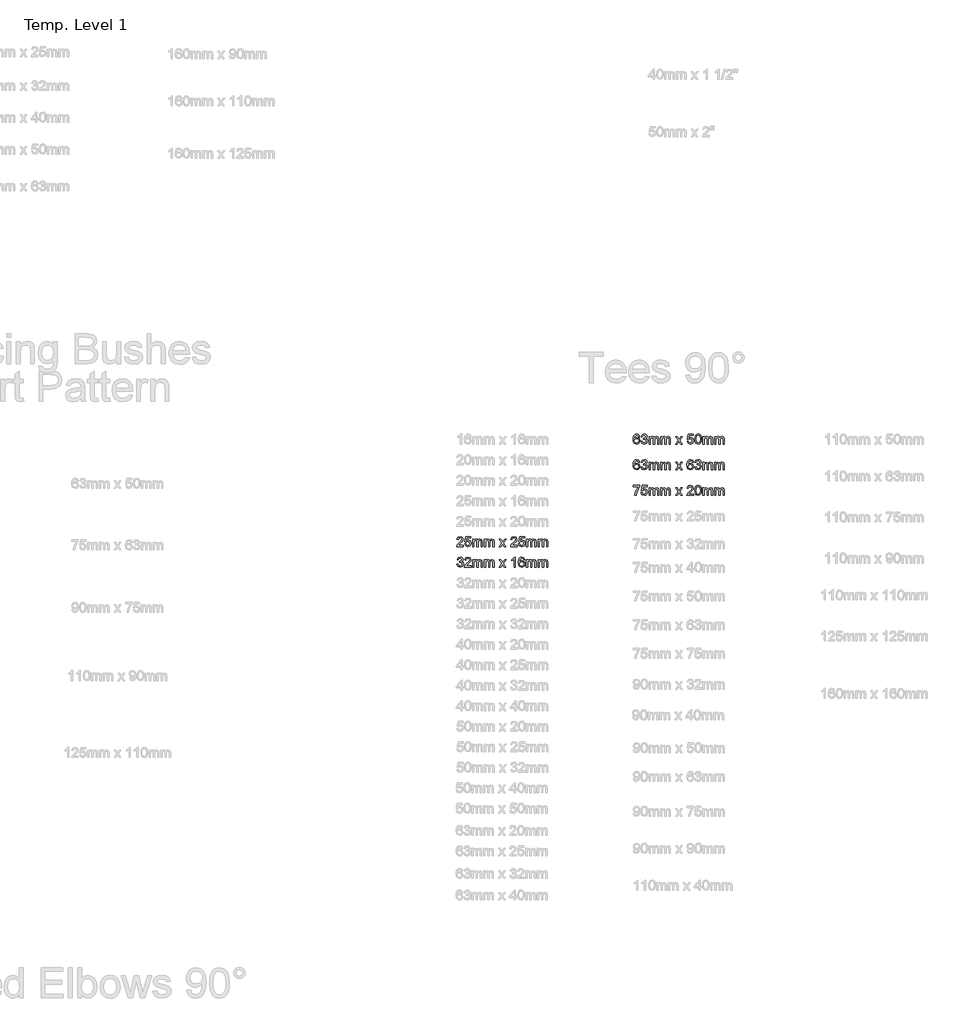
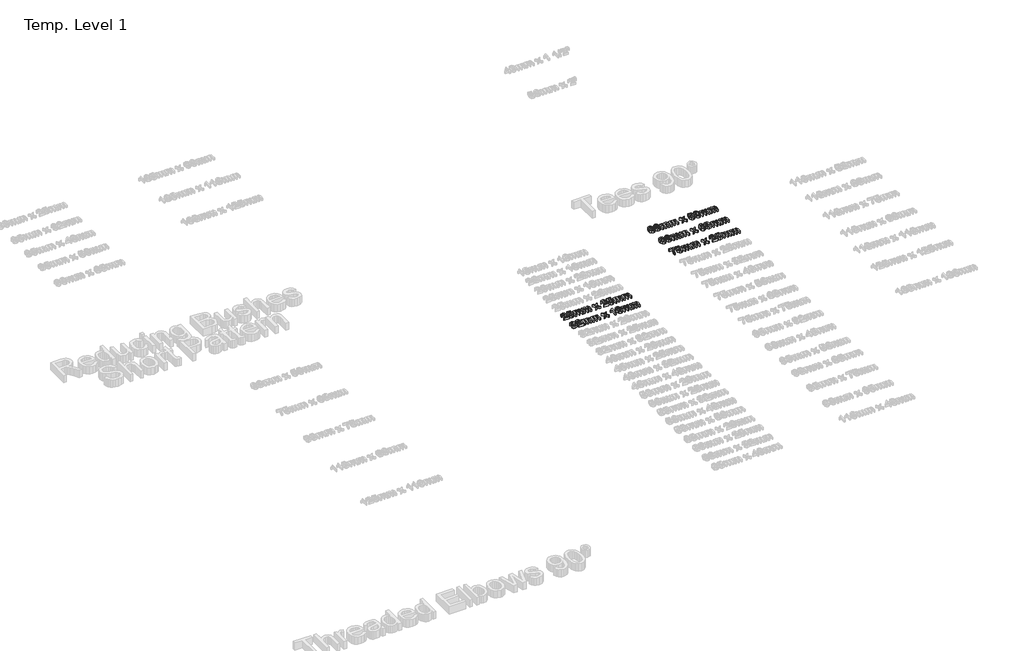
# One storey, part 43 of 62: 5 proxies.
"""IFC4 building model written with IfcOpenShell, lengths in millimetres."""

from ifc_helpers import new_model, si_unit, origin, origin_with_axes, place, context, project, spatial, polyline, outline, extrude, element, save

model = new_model("IFC4")

# Units and contexts
model_context = context("Model", 3, world=origin())
ifc_project = project(units=[si_unit("LENGTHUNIT", "METRE", prefix="MILLI")], contexts=[model_context])

# Site, building, storey
site = spatial("IfcSite", under=ifc_project)
building = spatial("IfcBuilding", under=site)
storey = spatial("IfcBuildingStorey", under=building, Name="Temp. Level 1", Elevation=0.0)

# Proxies
placement = place(None, origin())
element("IfcBuildingElementProxy", 1, Name="50mm Arial", ObjectType="50mm Arial", at=placement, inside=storey, context=model_context, shape_type="SweptSolid", body=[
    extrude(outline(polyline([(26447.257096, -7863.4026523), (26447.257096, -7869.5564984), (26414.9494036, -7869.5564984), (26415.6104613, -7865.31371), (26419.3484421, -7858.7812581), (26427.052769, -7851.6478446), (26437.677769, -7841.3954408), (26440.334019, -7834.4242869), (26437.8280094, -7828.7812581), (26431.2835383, -7826.4795754), (26424.4626248, -7828.7271715), (26421.8724806, -7834.9411138), (26415.7186344, -7834.1718831), (26420.4361825, -7823.8714023), (26431.4157498, -7820.3257292), (26442.4313748, -7824.2680369), (26446.4878652, -7834.0516908), (26445.3941152, -7839.8870273), (26441.7582979, -7845.9206811), (26432.9421921, -7854.3521715), (26425.8628652, -7860.2716427), (26423.0864229, -7863.4026523), (26447.257096, -7863.4026523)])), origin_with_axes(), (0.0, 0.0, 1.0), 15.0),
    extrude(outline(polyline([(26453.4109421, -7856.4795754), (26459.5647883, -7855.7103446), (26462.6657498, -7862.0504888), (26469.0960383, -7864.1718831), (26476.8123844, -7861.2211619), (26479.5647883, -7853.3906331), (26476.9866633, -7846.0829408), (26469.1921921, -7843.4026523), (26463.7895479, -7844.4723638), (26460.334019, -7847.2488061), (26454.1801729, -7846.4795754), (26459.5647883, -7821.09496), (26483.4109421, -7821.09496), (26483.4109421, -7827.2488061), (26464.5407498, -7827.2488061), (26461.9085383, -7840.8064984), (26470.9109421, -7837.2488061), (26481.4337786, -7841.6598638), (26485.7186344, -7853.0060177), (26481.8604613, -7864.4242869), (26476.319596, -7868.8503686), (26469.0719998, -7870.3257292), (26458.2126248, -7866.5336619), (26453.4109421, -7856.4795754)])), origin_with_axes(), (0.0, 0.0, 1.0), 15.0),
    extrude(outline(polyline([(26492.6417113, -7869.5564984), (26492.6417113, -7833.4026523), (26498.7955575, -7833.4026523), (26498.7955575, -7839.3521715), (26503.0263267, -7834.4783734), (26509.0479613, -7832.6334215), (26515.2138267, -7834.5144311), (26518.6032498, -7839.7848638), (26523.4049325, -7834.4212821), (26529.4686344, -7832.6334215), (26537.5155094, -7835.6081811), (26540.334019, -7844.7728446), (26540.334019, -7869.5564984), (26534.1801729, -7869.5564984), (26534.1801729, -7847.4170754), (26533.6092594, -7842.2788542), (26531.5419517, -7839.7488061), (26528.0263267, -7838.7872677), (26521.974644, -7841.25121), (26519.5647883, -7849.1478446), (26519.5647883, -7869.5564984), (26513.4109421, -7869.5564984), (26513.4109421, -7846.7319792), (26511.9866633, -7840.7704408), (26507.3171921, -7838.7872677), (26502.7619036, -7840.1093831), (26499.7330575, -7843.9795754), (26498.7955575, -7851.3233254), (26498.7955575, -7869.5564984), (26492.6417113, -7869.5564984)])), origin_with_axes(), (0.0, 0.0, 1.0), 15.0),
    extrude(outline(polyline([(26549.5647883, -7869.5564984), (26549.5647883, -7833.4026523), (26555.7186344, -7833.4026523), (26555.7186344, -7839.3521715), (26559.9494036, -7834.4783734), (26565.9710383, -7832.6334215), (26572.1369036, -7834.5144311), (26575.5263267, -7839.7848638), (26580.3280094, -7834.4212821), (26586.3917113, -7832.6334215), (26594.4385863, -7835.6081811), (26597.257096, -7844.7728446), (26597.257096, -7869.5564984), (26591.1032498, -7869.5564984), (26591.1032498, -7847.4170754), (26590.5323363, -7842.2788542), (26588.4650286, -7839.7488061), (26584.9494036, -7838.7872677), (26578.897721, -7841.25121), (26576.4878652, -7849.1478446), (26576.4878652, -7869.5564984), (26570.334019, -7869.5564984), (26570.334019, -7846.7319792), (26568.9097402, -7840.7704408), (26564.240269, -7838.7872677), (26559.6849806, -7840.1093831), (26556.6561344, -7843.9795754), (26555.7186344, -7851.3233254), (26555.7186344, -7869.5564984), (26549.5647883, -7869.5564984)])), origin_with_axes(), (0.0, 0.0, 1.0), 15.0),
    extrude(outline(polyline([(26621.8724806, -7869.5564984), (26635.021519, -7851.3834215), (26622.6417113, -7833.4026523), (26630.0455575, -7833.4026523), (26636.0191152, -7842.0564984), (26638.8075767, -7846.1430369), (26641.2234421, -7842.8016908), (26648.0263267, -7833.4026523), (26655.4301729, -7833.4026523), (26642.4253652, -7851.3834215), (26654.9494036, -7869.5564984), (26647.5455575, -7869.5564984), (26640.0094998, -7858.6310177), (26638.6272883, -7856.6358254), (26629.2763267, -7869.5564984), (26621.8724806, -7869.5564984)])), origin_with_axes(), (0.0, 0.0, 1.0), 15.0),
    extrude(outline(polyline([(26709.5647883, -7863.4026523), (26709.5647883, -7869.5564984), (26677.257096, -7869.5564984), (26677.9181536, -7865.31371), (26681.6561344, -7858.7812581), (26689.3604613, -7851.6478446), (26699.9854613, -7841.3954408), (26702.6417113, -7834.4242869), (26700.1357017, -7828.7812581), (26693.5912306, -7826.4795754), (26686.7703171, -7828.7271715), (26684.1801729, -7834.9411138), (26678.0263267, -7834.1718831), (26682.7438748, -7823.8714023), (26693.7234421, -7820.3257292), (26704.7390671, -7824.2680369), (26708.7955575, -7834.0516908), (26707.7018075, -7839.8870273), (26704.0659902, -7845.9206811), (26695.2498844, -7854.3521715), (26688.1705575, -7860.2716427), (26685.3941152, -7863.4026523), (26709.5647883, -7863.4026523)])), origin_with_axes(), (0.0, 0.0, 1.0), 15.0),
    extrude(outline(polyline([(26715.7186344, -7856.4795754), (26721.8724806, -7855.7103446), (26724.9734421, -7862.0504888), (26731.4037306, -7864.1718831), (26739.1200767, -7861.2211619), (26741.8724806, -7853.3906331), (26739.2943556, -7846.0829408), (26731.4998844, -7843.4026523), (26726.0972402, -7844.4723638), (26722.6417113, -7847.2488061), (26716.4878652, -7846.4795754), (26721.8724806, -7821.09496), (26745.7186344, -7821.09496), (26745.7186344, -7827.2488061), (26726.8484421, -7827.2488061), (26724.2162306, -7840.8064984), (26733.2186344, -7837.2488061), (26743.741471, -7841.6598638), (26748.0263267, -7853.0060177), (26744.1681536, -7864.4242869), (26738.6272883, -7868.8503686), (26731.3796921, -7870.3257292), (26720.5203171, -7866.5336619), (26715.7186344, -7856.4795754)])), origin_with_axes(), (0.0, 0.0, 1.0), 15.0),
    extrude(outline(polyline([(26754.9494036, -7869.5564984), (26754.9494036, -7833.4026523), (26761.1032498, -7833.4026523), (26761.1032498, -7839.3521715), (26765.334019, -7834.4783734), (26771.3556536, -7832.6334215), (26777.521519, -7834.5144311), (26780.9109421, -7839.7848638), (26785.7126248, -7834.4212821), (26791.7763267, -7832.6334215), (26799.8232017, -7835.6081811), (26802.6417113, -7844.7728446), (26802.6417113, -7869.5564984), (26796.4878652, -7869.5564984), (26796.4878652, -7847.4170754), (26795.9169517, -7842.2788542), (26793.849644, -7839.7488061), (26790.334019, -7838.7872677), (26784.2823363, -7841.25121), (26781.8724806, -7849.1478446), (26781.8724806, -7869.5564984), (26775.7186344, -7869.5564984), (26775.7186344, -7846.7319792), (26774.2943556, -7840.7704408), (26769.6248844, -7838.7872677), (26765.069596, -7840.1093831), (26762.0407498, -7843.9795754), (26761.1032498, -7851.3233254), (26761.1032498, -7869.5564984), (26754.9494036, -7869.5564984)])), origin_with_axes(), (0.0, 0.0, 1.0), 15.0),
    extrude(outline(polyline([(26811.8724806, -7869.5564984), (26811.8724806, -7833.4026523), (26818.0263267, -7833.4026523), (26818.0263267, -7839.3521715), (26822.257096, -7834.4783734), (26828.2787306, -7832.6334215), (26834.444596, -7834.5144311), (26837.834019, -7839.7848638), (26842.6357017, -7834.4212821), (26848.6994036, -7832.6334215), (26856.7462786, -7835.6081811), (26859.5647883, -7844.7728446), (26859.5647883, -7869.5564984), (26853.4109421, -7869.5564984), (26853.4109421, -7847.4170754), (26852.8400286, -7842.2788542), (26850.772721, -7839.7488061), (26847.257096, -7838.7872677), (26841.2054133, -7841.25121), (26838.7955575, -7849.1478446), (26838.7955575, -7869.5564984), (26832.6417113, -7869.5564984), (26832.6417113, -7846.7319792), (26831.2174325, -7840.7704408), (26826.5479613, -7838.7872677), (26821.9926729, -7840.1093831), (26818.9638267, -7843.9795754), (26818.0263267, -7851.3233254), (26818.0263267, -7869.5564984), (26811.8724806, -7869.5564984)])), origin_with_axes(), (0.0, 0.0, 1.0), 15.0),
])
element("IfcBuildingElementProxy", 2, Name="50mm Arial", ObjectType="50mm Arial", at=placement, inside=storey, context=model_context, shape_type="SweptSolid", body=[
    extrude(outline(polyline([(26415.7186344, -7956.4795754), (26421.8724806, -7955.7103446), (26425.2679133, -7962.18871), (26431.6200767, -7964.1718831), (26439.0960383, -7961.4435177), (26441.8724806, -7954.68871), (26439.1200767, -7948.3245273), (26432.1248844, -7945.8064984), (26427.8099806, -7946.4795754), (26428.4950767, -7940.3257292), (26436.4638267, -7938.6310177), (26439.5647883, -7933.1983254), (26437.3171921, -7928.3846234), (26431.5239229, -7926.4795754), (26425.6585383, -7928.4026523), (26422.6417113, -7934.1718831), (26416.4878652, -7933.4026523), (26421.5239229, -7923.75121), (26431.3075767, -7920.3257292), (26438.7294517, -7922.0144311), (26443.9217594, -7926.6298158), (26445.7186344, -7932.8377484), (26444.0119036, -7938.5108254), (26438.9638267, -7942.5853446), (26445.6705575, -7946.7920754), (26448.0263267, -7954.7968831), (26443.3147883, -7965.8064984), (26431.4037306, -7970.3257292), (26420.6104613, -7966.4675561), (26415.7186344, -7956.4795754)])), origin_with_axes(), (0.0, 0.0, 1.0), 15.0),
    extrude(outline(polyline([(26484.9494036, -7963.4026523), (26484.9494036, -7969.5564984), (26452.6417113, -7969.5564984), (26453.302769, -7965.31371), (26457.0407498, -7958.7812581), (26464.7450767, -7951.6478446), (26475.3700767, -7941.3954408), (26478.0263267, -7934.4242869), (26475.5203171, -7928.7812581), (26468.975846, -7926.4795754), (26462.1549325, -7928.7271715), (26459.5647883, -7934.9411138), (26453.4109421, -7934.1718831), (26458.1284902, -7923.8714023), (26469.1080575, -7920.3257292), (26480.1236825, -7924.2680369), (26484.1801729, -7934.0516908), (26483.0864229, -7939.8870273), (26479.4506056, -7945.9206811), (26470.6344998, -7954.3521715), (26463.5551729, -7960.2716427), (26460.7787306, -7963.4026523), (26484.9494036, -7963.4026523)])), origin_with_axes(), (0.0, 0.0, 1.0), 15.0),
    extrude(outline(polyline([(26492.6417113, -7969.5564984), (26492.6417113, -7933.4026523), (26498.7955575, -7933.4026523), (26498.7955575, -7939.3521715), (26503.0263267, -7934.4783734), (26509.0479613, -7932.6334215), (26515.2138267, -7934.5144311), (26518.6032498, -7939.7848638), (26523.4049325, -7934.4212821), (26529.4686344, -7932.6334215), (26537.5155094, -7935.6081811), (26540.334019, -7944.7728446), (26540.334019, -7969.5564984), (26534.1801729, -7969.5564984), (26534.1801729, -7947.4170754), (26533.6092594, -7942.2788542), (26531.5419517, -7939.7488061), (26528.0263267, -7938.7872677), (26521.974644, -7941.25121), (26519.5647883, -7949.1478446), (26519.5647883, -7969.5564984), (26513.4109421, -7969.5564984), (26513.4109421, -7946.7319792), (26511.9866633, -7940.7704408), (26507.3171921, -7938.7872677), (26502.7619036, -7940.1093831), (26499.7330575, -7943.9795754), (26498.7955575, -7951.3233254), (26498.7955575, -7969.5564984), (26492.6417113, -7969.5564984)])), origin_with_axes(), (0.0, 0.0, 1.0), 15.0),
    extrude(outline(polyline([(26549.5647883, -7969.5564984), (26549.5647883, -7933.4026523), (26555.7186344, -7933.4026523), (26555.7186344, -7939.3521715), (26559.9494036, -7934.4783734), (26565.9710383, -7932.6334215), (26572.1369036, -7934.5144311), (26575.5263267, -7939.7848638), (26580.3280094, -7934.4212821), (26586.3917113, -7932.6334215), (26594.4385863, -7935.6081811), (26597.257096, -7944.7728446), (26597.257096, -7969.5564984), (26591.1032498, -7969.5564984), (26591.1032498, -7947.4170754), (26590.5323363, -7942.2788542), (26588.4650286, -7939.7488061), (26584.9494036, -7938.7872677), (26578.897721, -7941.25121), (26576.4878652, -7949.1478446), (26576.4878652, -7969.5564984), (26570.334019, -7969.5564984), (26570.334019, -7946.7319792), (26568.9097402, -7940.7704408), (26564.240269, -7938.7872677), (26559.6849806, -7940.1093831), (26556.6561344, -7943.9795754), (26555.7186344, -7951.3233254), (26555.7186344, -7969.5564984), (26549.5647883, -7969.5564984)])), origin_with_axes(), (0.0, 0.0, 1.0), 15.0),
    extrude(outline(polyline([(26621.8724806, -7969.5564984), (26635.021519, -7951.3834215), (26622.6417113, -7933.4026523), (26630.0455575, -7933.4026523), (26636.0191152, -7942.0564984), (26638.8075767, -7946.1430369), (26641.2234421, -7942.8016908), (26648.0263267, -7933.4026523), (26655.4301729, -7933.4026523), (26642.4253652, -7951.3834215), (26654.9494036, -7969.5564984), (26647.5455575, -7969.5564984), (26640.0094998, -7958.6310177), (26638.6272883, -7956.6358254), (26629.2763267, -7969.5564984), (26621.8724806, -7969.5564984)])), origin_with_axes(), (0.0, 0.0, 1.0), 15.0),
    extrude(outline(polyline([(26701.1032498, -7969.5564984), (26694.9494036, -7969.5564984), (26694.9494036, -7931.1911138), (26689.1200767, -7935.3437581), (26682.6417113, -7938.4507292), (26682.6417113, -7932.6334215), (26691.662144, -7926.87621), (26697.1369036, -7920.3257292), (26701.1032498, -7920.3257292), (26701.1032498, -7969.5564984)])), origin_with_axes(), (0.0, 0.0, 1.0), 15.0),
    extrude(outline(polyline([(26747.257096, -7933.4026523), (26741.1032498, -7934.1718831), (26738.771519, -7929.0396715), (26732.6056536, -7926.4795754), (26727.052769, -7927.96996), (26722.8520479, -7933.5649119), (26721.1032498, -7944.53246), (26726.5299325, -7939.6226042), (26733.2546921, -7938.0180369), (26743.7114229, -7942.4050561), (26748.0263267, -7953.7391908), (26745.9950767, -7962.2307773), (26740.4061344, -7968.2403927), (26732.3412306, -7970.3257292), (26719.7991633, -7964.7968831), (26716.1618436, -7957.4771715), (26714.9494036, -7946.5757292), (26716.2955575, -7934.3191186), (26720.334019, -7925.93871), (26725.8478411, -7921.7289744), (26732.990269, -7920.3257292), (26742.7138267, -7923.7992869), (26747.257096, -7933.4026523)]), holes=[polyline([(26721.1032498, -7953.6430369), (26722.5275286, -7958.9735658), (26726.3135863, -7962.8437581), (26731.8604613, -7964.1718831), (26739.1140671, -7961.4194792), (26741.8724806, -7953.9435177), (26739.1501248, -7946.7860658), (26731.6080575, -7944.1718831), (26724.162144, -7946.7860658), (26721.1032498, -7953.6430369)])]), origin_with_axes(), (0.0, 0.0, 1.0), 15.0),
    extrude(outline(polyline([(26754.9494036, -7969.5564984), (26754.9494036, -7933.4026523), (26761.1032498, -7933.4026523), (26761.1032498, -7939.3521715), (26765.334019, -7934.4783734), (26771.3556536, -7932.6334215), (26777.521519, -7934.5144311), (26780.9109421, -7939.7848638), (26785.7126248, -7934.4212821), (26791.7763267, -7932.6334215), (26799.8232017, -7935.6081811), (26802.6417113, -7944.7728446), (26802.6417113, -7969.5564984), (26796.4878652, -7969.5564984), (26796.4878652, -7947.4170754), (26795.9169517, -7942.2788542), (26793.849644, -7939.7488061), (26790.334019, -7938.7872677), (26784.2823363, -7941.25121), (26781.8724806, -7949.1478446), (26781.8724806, -7969.5564984), (26775.7186344, -7969.5564984), (26775.7186344, -7946.7319792), (26774.2943556, -7940.7704408), (26769.6248844, -7938.7872677), (26765.069596, -7940.1093831), (26762.0407498, -7943.9795754), (26761.1032498, -7951.3233254), (26761.1032498, -7969.5564984), (26754.9494036, -7969.5564984)])), origin_with_axes(), (0.0, 0.0, 1.0), 15.0),
    extrude(outline(polyline([(26811.8724806, -7969.5564984), (26811.8724806, -7933.4026523), (26818.0263267, -7933.4026523), (26818.0263267, -7939.3521715), (26822.257096, -7934.4783734), (26828.2787306, -7932.6334215), (26834.444596, -7934.5144311), (26837.834019, -7939.7848638), (26842.6357017, -7934.4212821), (26848.6994036, -7932.6334215), (26856.7462786, -7935.6081811), (26859.5647883, -7944.7728446), (26859.5647883, -7969.5564984), (26853.4109421, -7969.5564984), (26853.4109421, -7947.4170754), (26852.8400286, -7942.2788542), (26850.772721, -7939.7488061), (26847.257096, -7938.7872677), (26841.2054133, -7941.25121), (26838.7955575, -7949.1478446), (26838.7955575, -7969.5564984), (26832.6417113, -7969.5564984), (26832.6417113, -7946.7319792), (26831.2174325, -7940.7704408), (26826.5479613, -7938.7872677), (26821.9926729, -7940.1093831), (26818.9638267, -7943.9795754), (26818.0263267, -7951.3233254), (26818.0263267, -7969.5564984), (26811.8724806, -7969.5564984)])), origin_with_axes(), (0.0, 0.0, 1.0), 15.0),
])
element("IfcBuildingElementProxy", 3, Name="50mm Arial", ObjectType="50mm Arial", at=placement, inside=storey, context=model_context, shape_type="SweptSolid", body=[
    extrude(outline(polyline([(27307.257096, -7333.4026523), (27301.1032498, -7334.1718831), (27298.771519, -7329.0396715), (27292.6056536, -7326.4795754), (27287.052769, -7327.96996), (27282.8520479, -7333.5649119), (27281.1032498, -7344.53246), (27286.5299325, -7339.6226042), (27293.2546921, -7338.0180369), (27303.7114229, -7342.4050561), (27308.0263267, -7353.7391908), (27305.9950767, -7362.2307773), (27300.4061344, -7368.2403927), (27292.3412306, -7370.3257292), (27279.7991633, -7364.7968831), (27276.1618436, -7357.4771715), (27274.9494036, -7346.5757292), (27276.2955575, -7334.3191186), (27280.334019, -7325.93871), (27285.8478411, -7321.7289744), (27292.990269, -7320.3257292), (27302.7138267, -7323.7992869), (27307.257096, -7333.4026523)]), holes=[polyline([(27281.1032498, -7353.6430369), (27282.5275286, -7358.9735658), (27286.3135863, -7362.8437581), (27291.8604613, -7364.1718831), (27299.1140671, -7361.4194792), (27301.8724806, -7353.9435177), (27299.1501248, -7346.7860658), (27291.6080575, -7344.1718831), (27284.162144, -7346.7860658), (27281.1032498, -7353.6430369)])]), origin_with_axes(), (0.0, 0.0, 1.0), 15.0),
    extrude(outline(polyline([(27313.4109421, -7356.4795754), (27319.5647883, -7355.7103446), (27322.960221, -7362.18871), (27329.3123844, -7364.1718831), (27336.788346, -7361.4435177), (27339.5647883, -7354.68871), (27336.8123844, -7348.3245273), (27329.8171921, -7345.8064984), (27325.5022883, -7346.4795754), (27326.1873844, -7340.3257292), (27334.1561344, -7338.6310177), (27337.257096, -7333.1983254), (27335.0094998, -7328.3846234), (27329.2162306, -7326.4795754), (27323.350846, -7328.4026523), (27320.334019, -7334.1718831), (27314.1801729, -7333.4026523), (27319.2162306, -7323.75121), (27328.9998844, -7320.3257292), (27336.4217594, -7322.0144311), (27341.6140671, -7326.6298158), (27343.4109421, -7332.8377484), (27341.7042113, -7338.5108254), (27336.6561344, -7342.5853446), (27343.3628652, -7346.7920754), (27345.7186344, -7354.7968831), (27341.007096, -7365.8064984), (27329.0960383, -7370.3257292), (27318.302769, -7366.4675561), (27313.4109421, -7356.4795754)])), origin_with_axes(), (0.0, 0.0, 1.0), 15.0),
    extrude(outline(polyline([(27352.6417113, -7369.5564984), (27352.6417113, -7333.4026523), (27358.7955575, -7333.4026523), (27358.7955575, -7339.3521715), (27363.0263267, -7334.4783734), (27369.0479613, -7332.6334215), (27375.2138267, -7334.5144311), (27378.6032498, -7339.7848638), (27383.4049325, -7334.4212821), (27389.4686344, -7332.6334215), (27397.5155094, -7335.6081811), (27400.334019, -7344.7728446), (27400.334019, -7369.5564984), (27394.1801729, -7369.5564984), (27394.1801729, -7347.4170754), (27393.6092594, -7342.2788542), (27391.5419517, -7339.7488061), (27388.0263267, -7338.7872677), (27381.974644, -7341.25121), (27379.5647883, -7349.1478446), (27379.5647883, -7369.5564984), (27373.4109421, -7369.5564984), (27373.4109421, -7346.7319792), (27371.9866633, -7340.7704408), (27367.3171921, -7338.7872677), (27362.7619036, -7340.1093831), (27359.7330575, -7343.9795754), (27358.7955575, -7351.3233254), (27358.7955575, -7369.5564984), (27352.6417113, -7369.5564984)])), origin_with_axes(), (0.0, 0.0, 1.0), 15.0),
    extrude(outline(polyline([(27409.5647883, -7369.5564984), (27409.5647883, -7333.4026523), (27415.7186344, -7333.4026523), (27415.7186344, -7339.3521715), (27419.9494036, -7334.4783734), (27425.9710383, -7332.6334215), (27432.1369036, -7334.5144311), (27435.5263267, -7339.7848638), (27440.3280094, -7334.4212821), (27446.3917113, -7332.6334215), (27454.4385863, -7335.6081811), (27457.257096, -7344.7728446), (27457.257096, -7369.5564984), (27451.1032498, -7369.5564984), (27451.1032498, -7347.4170754), (27450.5323363, -7342.2788542), (27448.4650286, -7339.7488061), (27444.9494036, -7338.7872677), (27438.897721, -7341.25121), (27436.4878652, -7349.1478446), (27436.4878652, -7369.5564984), (27430.334019, -7369.5564984), (27430.334019, -7346.7319792), (27428.9097402, -7340.7704408), (27424.240269, -7338.7872677), (27419.6849806, -7340.1093831), (27416.6561344, -7343.9795754), (27415.7186344, -7351.3233254), (27415.7186344, -7369.5564984), (27409.5647883, -7369.5564984)])), origin_with_axes(), (0.0, 0.0, 1.0), 15.0),
    extrude(outline(polyline([(27481.8724806, -7369.5564984), (27495.021519, -7351.3834215), (27482.6417113, -7333.4026523), (27490.0455575, -7333.4026523), (27496.0191152, -7342.0564984), (27498.8075767, -7346.1430369), (27501.2234421, -7342.8016908), (27508.0263267, -7333.4026523), (27515.4301729, -7333.4026523), (27502.4253652, -7351.3834215), (27514.9494036, -7369.5564984), (27507.5455575, -7369.5564984), (27500.0094998, -7358.6310177), (27498.6272883, -7356.6358254), (27489.2763267, -7369.5564984), (27481.8724806, -7369.5564984)])), origin_with_axes(), (0.0, 0.0, 1.0), 15.0),
    extrude(outline(polyline([(27538.0263267, -7356.4795754), (27544.1801729, -7355.7103446), (27547.2811344, -7362.0504888), (27553.7114229, -7364.1718831), (27561.427769, -7361.2211619), (27564.1801729, -7353.3906331), (27561.6020479, -7346.0829408), (27553.8075767, -7343.4026523), (27548.4049325, -7344.4723638), (27544.9494036, -7347.2488061), (27538.7955575, -7346.4795754), (27544.1801729, -7321.09496), (27568.0263267, -7321.09496), (27568.0263267, -7327.2488061), (27549.1561344, -7327.2488061), (27546.5239229, -7340.8064984), (27555.5263267, -7337.2488061), (27566.0491633, -7341.6598638), (27570.334019, -7353.0060177), (27566.475846, -7364.4242869), (27560.9349806, -7368.8503686), (27553.6873844, -7370.3257292), (27542.8280094, -7366.5336619), (27538.0263267, -7356.4795754)])), origin_with_axes(), (0.0, 0.0, 1.0), 15.0),
    extrude(outline(polyline([(27575.7186344, -7345.3377484), (27577.5275286, -7331.173085), (27582.9001248, -7323.0060177), (27591.8724806, -7320.3257292), (27599.0599806, -7321.9122677), (27604.0239229, -7326.485585), (27606.9085383, -7333.7692388), (27608.0263267, -7345.3377484), (27606.2354613, -7359.4423158), (27600.880894, -7367.6274119), (27591.8724806, -7370.3257292), (27580.6224806, -7365.6382292), (27576.944596, -7357.3119071), (27575.7186344, -7345.3377484)]), holes=[polyline([(27581.8724806, -7345.3257292), (27584.757096, -7360.6081811), (27591.8724806, -7364.1718831), (27598.9878652, -7360.5961619), (27601.8724806, -7345.3257292), (27599.084019, -7330.2175561), (27591.8003652, -7326.4795754), (27584.8532498, -7329.7728446), (27581.8724806, -7345.3257292)])]), origin_with_axes(), (0.0, 0.0, 1.0), 15.0),
    extrude(outline(polyline([(27614.9494036, -7369.5564984), (27614.9494036, -7333.4026523), (27621.1032498, -7333.4026523), (27621.1032498, -7339.3521715), (27625.334019, -7334.4783734), (27631.3556536, -7332.6334215), (27637.521519, -7334.5144311), (27640.9109421, -7339.7848638), (27645.7126248, -7334.4212821), (27651.7763267, -7332.6334215), (27659.8232017, -7335.6081811), (27662.6417113, -7344.7728446), (27662.6417113, -7369.5564984), (27656.4878652, -7369.5564984), (27656.4878652, -7347.4170754), (27655.9169517, -7342.2788542), (27653.849644, -7339.7488061), (27650.334019, -7338.7872677), (27644.2823363, -7341.25121), (27641.8724806, -7349.1478446), (27641.8724806, -7369.5564984), (27635.7186344, -7369.5564984), (27635.7186344, -7346.7319792), (27634.2943556, -7340.7704408), (27629.6248844, -7338.7872677), (27625.069596, -7340.1093831), (27622.0407498, -7343.9795754), (27621.1032498, -7351.3233254), (27621.1032498, -7369.5564984), (27614.9494036, -7369.5564984)])), origin_with_axes(), (0.0, 0.0, 1.0), 15.0),
    extrude(outline(polyline([(27671.8724806, -7369.5564984), (27671.8724806, -7333.4026523), (27678.0263267, -7333.4026523), (27678.0263267, -7339.3521715), (27682.257096, -7334.4783734), (27688.2787306, -7332.6334215), (27694.444596, -7334.5144311), (27697.834019, -7339.7848638), (27702.6357017, -7334.4212821), (27708.6994036, -7332.6334215), (27716.7462786, -7335.6081811), (27719.5647883, -7344.7728446), (27719.5647883, -7369.5564984), (27713.4109421, -7369.5564984), (27713.4109421, -7347.4170754), (27712.8400286, -7342.2788542), (27710.772721, -7339.7488061), (27707.257096, -7338.7872677), (27701.2054133, -7341.25121), (27698.7955575, -7349.1478446), (27698.7955575, -7369.5564984), (27692.6417113, -7369.5564984), (27692.6417113, -7346.7319792), (27691.2174325, -7340.7704408), (27686.5479613, -7338.7872677), (27681.9926729, -7340.1093831), (27678.9638267, -7343.9795754), (27678.0263267, -7351.3233254), (27678.0263267, -7369.5564984), (27671.8724806, -7369.5564984)])), origin_with_axes(), (0.0, 0.0, 1.0), 15.0),
])
element("IfcBuildingElementProxy", 4, Name="50mm Arial", ObjectType="50mm Arial", at=placement, inside=storey, context=model_context, shape_type="SweptSolid", body=[
    extrude(outline(polyline([(27307.257096, -7458.4026523), (27301.1032498, -7459.1718831), (27298.771519, -7454.0396715), (27292.6056536, -7451.4795754), (27287.052769, -7452.96996), (27282.8520479, -7458.5649119), (27281.1032498, -7469.53246), (27286.5299325, -7464.6226042), (27293.2546921, -7463.0180369), (27303.7114229, -7467.4050561), (27308.0263267, -7478.7391908), (27305.9950767, -7487.2307773), (27300.4061344, -7493.2403927), (27292.3412306, -7495.3257292), (27279.7991633, -7489.7968831), (27276.1618436, -7482.4771715), (27274.9494036, -7471.5757292), (27276.2955575, -7459.3191186), (27280.334019, -7450.93871), (27285.8478411, -7446.7289744), (27292.990269, -7445.3257292), (27302.7138267, -7448.7992869), (27307.257096, -7458.4026523)]), holes=[polyline([(27281.1032498, -7478.6430369), (27282.5275286, -7483.9735658), (27286.3135863, -7487.8437581), (27291.8604613, -7489.1718831), (27299.1140671, -7486.4194792), (27301.8724806, -7478.9435177), (27299.1501248, -7471.7860658), (27291.6080575, -7469.1718831), (27284.162144, -7471.7860658), (27281.1032498, -7478.6430369)])]), origin_with_axes(), (0.0, 0.0, 1.0), 15.0),
    extrude(outline(polyline([(27313.4109421, -7481.4795754), (27319.5647883, -7480.7103446), (27322.960221, -7487.18871), (27329.3123844, -7489.1718831), (27336.788346, -7486.4435177), (27339.5647883, -7479.68871), (27336.8123844, -7473.3245273), (27329.8171921, -7470.8064984), (27325.5022883, -7471.4795754), (27326.1873844, -7465.3257292), (27334.1561344, -7463.6310177), (27337.257096, -7458.1983254), (27335.0094998, -7453.3846234), (27329.2162306, -7451.4795754), (27323.350846, -7453.4026523), (27320.334019, -7459.1718831), (27314.1801729, -7458.4026523), (27319.2162306, -7448.75121), (27328.9998844, -7445.3257292), (27336.4217594, -7447.0144311), (27341.6140671, -7451.6298158), (27343.4109421, -7457.8377484), (27341.7042113, -7463.5108254), (27336.6561344, -7467.5853446), (27343.3628652, -7471.7920754), (27345.7186344, -7479.7968831), (27341.007096, -7490.8064984), (27329.0960383, -7495.3257292), (27318.302769, -7491.4675561), (27313.4109421, -7481.4795754)])), origin_with_axes(), (0.0, 0.0, 1.0), 15.0),
    extrude(outline(polyline([(27352.6417113, -7494.5564984), (27352.6417113, -7458.4026523), (27358.7955575, -7458.4026523), (27358.7955575, -7464.3521715), (27363.0263267, -7459.4783734), (27369.0479613, -7457.6334215), (27375.2138267, -7459.5144311), (27378.6032498, -7464.7848638), (27383.4049325, -7459.4212821), (27389.4686344, -7457.6334215), (27397.5155094, -7460.6081811), (27400.334019, -7469.7728446), (27400.334019, -7494.5564984), (27394.1801729, -7494.5564984), (27394.1801729, -7472.4170754), (27393.6092594, -7467.2788542), (27391.5419517, -7464.7488061), (27388.0263267, -7463.7872677), (27381.974644, -7466.25121), (27379.5647883, -7474.1478446), (27379.5647883, -7494.5564984), (27373.4109421, -7494.5564984), (27373.4109421, -7471.7319792), (27371.9866633, -7465.7704408), (27367.3171921, -7463.7872677), (27362.7619036, -7465.1093831), (27359.7330575, -7468.9795754), (27358.7955575, -7476.3233254), (27358.7955575, -7494.5564984), (27352.6417113, -7494.5564984)])), origin_with_axes(), (0.0, 0.0, 1.0), 15.0),
    extrude(outline(polyline([(27409.5647883, -7494.5564984), (27409.5647883, -7458.4026523), (27415.7186344, -7458.4026523), (27415.7186344, -7464.3521715), (27419.9494036, -7459.4783734), (27425.9710383, -7457.6334215), (27432.1369036, -7459.5144311), (27435.5263267, -7464.7848638), (27440.3280094, -7459.4212821), (27446.3917113, -7457.6334215), (27454.4385863, -7460.6081811), (27457.257096, -7469.7728446), (27457.257096, -7494.5564984), (27451.1032498, -7494.5564984), (27451.1032498, -7472.4170754), (27450.5323363, -7467.2788542), (27448.4650286, -7464.7488061), (27444.9494036, -7463.7872677), (27438.897721, -7466.25121), (27436.4878652, -7474.1478446), (27436.4878652, -7494.5564984), (27430.334019, -7494.5564984), (27430.334019, -7471.7319792), (27428.9097402, -7465.7704408), (27424.240269, -7463.7872677), (27419.6849806, -7465.1093831), (27416.6561344, -7468.9795754), (27415.7186344, -7476.3233254), (27415.7186344, -7494.5564984), (27409.5647883, -7494.5564984)])), origin_with_axes(), (0.0, 0.0, 1.0), 15.0),
    extrude(outline(polyline([(27481.8724806, -7494.5564984), (27495.021519, -7476.3834215), (27482.6417113, -7458.4026523), (27490.0455575, -7458.4026523), (27496.0191152, -7467.0564984), (27498.8075767, -7471.1430369), (27501.2234421, -7467.8016908), (27508.0263267, -7458.4026523), (27515.4301729, -7458.4026523), (27502.4253652, -7476.3834215), (27514.9494036, -7494.5564984), (27507.5455575, -7494.5564984), (27500.0094998, -7483.6310177), (27498.6272883, -7481.6358254), (27489.2763267, -7494.5564984), (27481.8724806, -7494.5564984)])), origin_with_axes(), (0.0, 0.0, 1.0), 15.0),
    extrude(outline(polyline([(27569.5647883, -7458.4026523), (27563.4109421, -7459.1718831), (27561.0792113, -7454.0396715), (27554.913346, -7451.4795754), (27549.3604613, -7452.96996), (27545.1597402, -7458.5649119), (27543.4109421, -7469.53246), (27548.8376248, -7464.6226042), (27555.5623844, -7463.0180369), (27566.0191152, -7467.4050561), (27570.334019, -7478.7391908), (27568.302769, -7487.2307773), (27562.7138267, -7493.2403927), (27554.6489229, -7495.3257292), (27542.1068556, -7489.7968831), (27538.4695359, -7482.4771715), (27537.257096, -7471.5757292), (27538.6032498, -7459.3191186), (27542.6417113, -7450.93871), (27548.1555335, -7446.7289744), (27555.2979613, -7445.3257292), (27565.021519, -7448.7992869), (27569.5647883, -7458.4026523)]), holes=[polyline([(27543.4109421, -7478.6430369), (27544.835221, -7483.9735658), (27548.6212786, -7487.8437581), (27554.1681536, -7489.1718831), (27561.4217594, -7486.4194792), (27564.1801729, -7478.9435177), (27561.4578171, -7471.7860658), (27553.9157498, -7469.1718831), (27546.4698363, -7471.7860658), (27543.4109421, -7478.6430369)])]), origin_with_axes(), (0.0, 0.0, 1.0), 15.0),
    extrude(outline(polyline([(27575.7186344, -7481.4795754), (27581.8724806, -7480.7103446), (27585.2679133, -7487.18871), (27591.6200767, -7489.1718831), (27599.0960383, -7486.4435177), (27601.8724806, -7479.68871), (27599.1200767, -7473.3245273), (27592.1248844, -7470.8064984), (27587.8099806, -7471.4795754), (27588.4950767, -7465.3257292), (27596.4638267, -7463.6310177), (27599.5647883, -7458.1983254), (27597.3171921, -7453.3846234), (27591.5239229, -7451.4795754), (27585.6585383, -7453.4026523), (27582.6417113, -7459.1718831), (27576.4878652, -7458.4026523), (27581.5239229, -7448.75121), (27591.3075767, -7445.3257292), (27598.7294517, -7447.0144311), (27603.9217594, -7451.6298158), (27605.7186344, -7457.8377484), (27604.0119036, -7463.5108254), (27598.9638267, -7467.5853446), (27605.6705575, -7471.7920754), (27608.0263267, -7479.7968831), (27603.3147883, -7490.8064984), (27591.4037306, -7495.3257292), (27580.6104613, -7491.4675561), (27575.7186344, -7481.4795754)])), origin_with_axes(), (0.0, 0.0, 1.0), 15.0),
    extrude(outline(polyline([(27614.9494036, -7494.5564984), (27614.9494036, -7458.4026523), (27621.1032498, -7458.4026523), (27621.1032498, -7464.3521715), (27625.334019, -7459.4783734), (27631.3556536, -7457.6334215), (27637.521519, -7459.5144311), (27640.9109421, -7464.7848638), (27645.7126248, -7459.4212821), (27651.7763267, -7457.6334215), (27659.8232017, -7460.6081811), (27662.6417113, -7469.7728446), (27662.6417113, -7494.5564984), (27656.4878652, -7494.5564984), (27656.4878652, -7472.4170754), (27655.9169517, -7467.2788542), (27653.849644, -7464.7488061), (27650.334019, -7463.7872677), (27644.2823363, -7466.25121), (27641.8724806, -7474.1478446), (27641.8724806, -7494.5564984), (27635.7186344, -7494.5564984), (27635.7186344, -7471.7319792), (27634.2943556, -7465.7704408), (27629.6248844, -7463.7872677), (27625.069596, -7465.1093831), (27622.0407498, -7468.9795754), (27621.1032498, -7476.3233254), (27621.1032498, -7494.5564984), (27614.9494036, -7494.5564984)])), origin_with_axes(), (0.0, 0.0, 1.0), 15.0),
    extrude(outline(polyline([(27671.8724806, -7494.5564984), (27671.8724806, -7458.4026523), (27678.0263267, -7458.4026523), (27678.0263267, -7464.3521715), (27682.257096, -7459.4783734), (27688.2787306, -7457.6334215), (27694.444596, -7459.5144311), (27697.834019, -7464.7848638), (27702.6357017, -7459.4212821), (27708.6994036, -7457.6334215), (27716.7462786, -7460.6081811), (27719.5647883, -7469.7728446), (27719.5647883, -7494.5564984), (27713.4109421, -7494.5564984), (27713.4109421, -7472.4170754), (27712.8400286, -7467.2788542), (27710.772721, -7464.7488061), (27707.257096, -7463.7872677), (27701.2054133, -7466.25121), (27698.7955575, -7474.1478446), (27698.7955575, -7494.5564984), (27692.6417113, -7494.5564984), (27692.6417113, -7471.7319792), (27691.2174325, -7465.7704408), (27686.5479613, -7463.7872677), (27681.9926729, -7465.1093831), (27678.9638267, -7468.9795754), (27678.0263267, -7476.3233254), (27678.0263267, -7494.5564984), (27671.8724806, -7494.5564984)])), origin_with_axes(), (0.0, 0.0, 1.0), 15.0),
])
element("IfcBuildingElementProxy", 5, Name="50mm Arial", ObjectType="50mm Arial", at=placement, inside=storey, context=model_context, shape_type="SweptSolid", body=[
    extrude(outline(polyline([(27275.7186344, -7577.2488061), (27275.7186344, -7571.09496), (27308.0263267, -7571.09496), (27308.0263267, -7576.0709215), (27298.8616633, -7589.3101042), (27291.8484421, -7606.1790946), (27289.5647883, -7619.5564984), (27283.4109421, -7619.5564984), (27285.8568556, -7605.6742869), (27292.569596, -7589.9831811), (27301.8724806, -7577.2488061), (27275.7186344, -7577.2488061)])), origin_with_axes(), (0.0, 0.0, 1.0), 15.0),
    extrude(outline(polyline([(27313.4109421, -7606.4795754), (27319.5647883, -7605.7103446), (27322.6657498, -7612.0504888), (27329.0960383, -7614.1718831), (27336.8123844, -7611.2211619), (27339.5647883, -7603.3906331), (27336.9866633, -7596.0829408), (27329.1921921, -7593.4026523), (27323.7895479, -7594.4723638), (27320.334019, -7597.2488061), (27314.1801729, -7596.4795754), (27319.5647883, -7571.09496), (27343.4109421, -7571.09496), (27343.4109421, -7577.2488061), (27324.5407498, -7577.2488061), (27321.9085383, -7590.8064984), (27330.9109421, -7587.2488061), (27341.4337786, -7591.6598638), (27345.7186344, -7603.0060177), (27341.8604613, -7614.4242869), (27336.319596, -7618.8503686), (27329.0719998, -7620.3257292), (27318.2126248, -7616.5336619), (27313.4109421, -7606.4795754)])), origin_with_axes(), (0.0, 0.0, 1.0), 15.0),
    extrude(outline(polyline([(27352.6417113, -7619.5564984), (27352.6417113, -7583.4026523), (27358.7955575, -7583.4026523), (27358.7955575, -7589.3521715), (27363.0263267, -7584.4783734), (27369.0479613, -7582.6334215), (27375.2138267, -7584.5144311), (27378.6032498, -7589.7848638), (27383.4049325, -7584.4212821), (27389.4686344, -7582.6334215), (27397.5155094, -7585.6081811), (27400.334019, -7594.7728446), (27400.334019, -7619.5564984), (27394.1801729, -7619.5564984), (27394.1801729, -7597.4170754), (27393.6092594, -7592.2788542), (27391.5419517, -7589.7488061), (27388.0263267, -7588.7872677), (27381.974644, -7591.25121), (27379.5647883, -7599.1478446), (27379.5647883, -7619.5564984), (27373.4109421, -7619.5564984), (27373.4109421, -7596.7319792), (27371.9866633, -7590.7704408), (27367.3171921, -7588.7872677), (27362.7619036, -7590.1093831), (27359.7330575, -7593.9795754), (27358.7955575, -7601.3233254), (27358.7955575, -7619.5564984), (27352.6417113, -7619.5564984)])), origin_with_axes(), (0.0, 0.0, 1.0), 15.0),
    extrude(outline(polyline([(27409.5647883, -7619.5564984), (27409.5647883, -7583.4026523), (27415.7186344, -7583.4026523), (27415.7186344, -7589.3521715), (27419.9494036, -7584.4783734), (27425.9710383, -7582.6334215), (27432.1369036, -7584.5144311), (27435.5263267, -7589.7848638), (27440.3280094, -7584.4212821), (27446.3917113, -7582.6334215), (27454.4385863, -7585.6081811), (27457.257096, -7594.7728446), (27457.257096, -7619.5564984), (27451.1032498, -7619.5564984), (27451.1032498, -7597.4170754), (27450.5323363, -7592.2788542), (27448.4650286, -7589.7488061), (27444.9494036, -7588.7872677), (27438.897721, -7591.25121), (27436.4878652, -7599.1478446), (27436.4878652, -7619.5564984), (27430.334019, -7619.5564984), (27430.334019, -7596.7319792), (27428.9097402, -7590.7704408), (27424.240269, -7588.7872677), (27419.6849806, -7590.1093831), (27416.6561344, -7593.9795754), (27415.7186344, -7601.3233254), (27415.7186344, -7619.5564984), (27409.5647883, -7619.5564984)])), origin_with_axes(), (0.0, 0.0, 1.0), 15.0),
    extrude(outline(polyline([(27481.8724806, -7619.5564984), (27495.021519, -7601.3834215), (27482.6417113, -7583.4026523), (27490.0455575, -7583.4026523), (27496.0191152, -7592.0564984), (27498.8075767, -7596.1430369), (27501.2234421, -7592.8016908), (27508.0263267, -7583.4026523), (27515.4301729, -7583.4026523), (27502.4253652, -7601.3834215), (27514.9494036, -7619.5564984), (27507.5455575, -7619.5564984), (27500.0094998, -7608.6310177), (27498.6272883, -7606.6358254), (27489.2763267, -7619.5564984), (27481.8724806, -7619.5564984)])), origin_with_axes(), (0.0, 0.0, 1.0), 15.0),
    extrude(outline(polyline([(27569.5647883, -7613.4026523), (27569.5647883, -7619.5564984), (27537.257096, -7619.5564984), (27537.9181536, -7615.31371), (27541.6561344, -7608.7812581), (27549.3604613, -7601.6478446), (27559.9854613, -7591.3954408), (27562.6417113, -7584.4242869), (27560.1357017, -7578.7812581), (27553.5912306, -7576.4795754), (27546.7703171, -7578.7271715), (27544.1801729, -7584.9411138), (27538.0263267, -7584.1718831), (27542.7438748, -7573.8714023), (27553.7234421, -7570.3257292), (27564.7390671, -7574.2680369), (27568.7955575, -7584.0516908), (27567.7018075, -7589.8870273), (27564.0659902, -7595.9206811), (27555.2498844, -7604.3521715), (27548.1705575, -7610.2716427), (27545.3941152, -7613.4026523), (27569.5647883, -7613.4026523)])), origin_with_axes(), (0.0, 0.0, 1.0), 15.0),
    extrude(outline(polyline([(27575.7186344, -7595.3377484), (27577.5275286, -7581.173085), (27582.9001248, -7573.0060177), (27591.8724806, -7570.3257292), (27599.0599806, -7571.9122677), (27604.0239229, -7576.485585), (27606.9085383, -7583.7692388), (27608.0263267, -7595.3377484), (27606.2354613, -7609.4423158), (27600.880894, -7617.6274119), (27591.8724806, -7620.3257292), (27580.6224806, -7615.6382292), (27576.944596, -7607.3119071), (27575.7186344, -7595.3377484)]), holes=[polyline([(27581.8724806, -7595.3257292), (27584.757096, -7610.6081811), (27591.8724806, -7614.1718831), (27598.9878652, -7610.5961619), (27601.8724806, -7595.3257292), (27599.084019, -7580.2175561), (27591.8003652, -7576.4795754), (27584.8532498, -7579.7728446), (27581.8724806, -7595.3257292)])]), origin_with_axes(), (0.0, 0.0, 1.0), 15.0),
    extrude(outline(polyline([(27614.9494036, -7619.5564984), (27614.9494036, -7583.4026523), (27621.1032498, -7583.4026523), (27621.1032498, -7589.3521715), (27625.334019, -7584.4783734), (27631.3556536, -7582.6334215), (27637.521519, -7584.5144311), (27640.9109421, -7589.7848638), (27645.7126248, -7584.4212821), (27651.7763267, -7582.6334215), (27659.8232017, -7585.6081811), (27662.6417113, -7594.7728446), (27662.6417113, -7619.5564984), (27656.4878652, -7619.5564984), (27656.4878652, -7597.4170754), (27655.9169517, -7592.2788542), (27653.849644, -7589.7488061), (27650.334019, -7588.7872677), (27644.2823363, -7591.25121), (27641.8724806, -7599.1478446), (27641.8724806, -7619.5564984), (27635.7186344, -7619.5564984), (27635.7186344, -7596.7319792), (27634.2943556, -7590.7704408), (27629.6248844, -7588.7872677), (27625.069596, -7590.1093831), (27622.0407498, -7593.9795754), (27621.1032498, -7601.3233254), (27621.1032498, -7619.5564984), (27614.9494036, -7619.5564984)])), origin_with_axes(), (0.0, 0.0, 1.0), 15.0),
    extrude(outline(polyline([(27671.8724806, -7619.5564984), (27671.8724806, -7583.4026523), (27678.0263267, -7583.4026523), (27678.0263267, -7589.3521715), (27682.257096, -7584.4783734), (27688.2787306, -7582.6334215), (27694.444596, -7584.5144311), (27697.834019, -7589.7848638), (27702.6357017, -7584.4212821), (27708.6994036, -7582.6334215), (27716.7462786, -7585.6081811), (27719.5647883, -7594.7728446), (27719.5647883, -7619.5564984), (27713.4109421, -7619.5564984), (27713.4109421, -7597.4170754), (27712.8400286, -7592.2788542), (27710.772721, -7589.7488061), (27707.257096, -7588.7872677), (27701.2054133, -7591.25121), (27698.7955575, -7599.1478446), (27698.7955575, -7619.5564984), (27692.6417113, -7619.5564984), (27692.6417113, -7596.7319792), (27691.2174325, -7590.7704408), (27686.5479613, -7588.7872677), (27681.9926729, -7590.1093831), (27678.9638267, -7593.9795754), (27678.0263267, -7601.3233254), (27678.0263267, -7619.5564984), (27671.8724806, -7619.5564984)])), origin_with_axes(), (0.0, 0.0, 1.0), 15.0),
])

save(model, "model.ifc")
